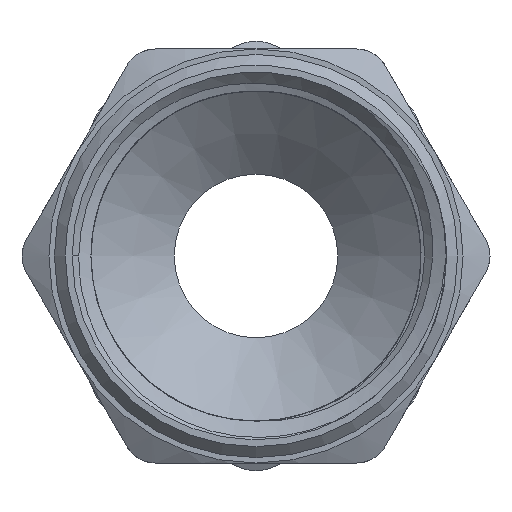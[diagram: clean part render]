
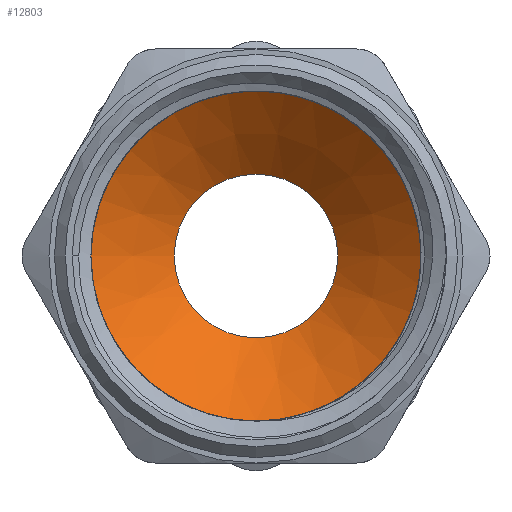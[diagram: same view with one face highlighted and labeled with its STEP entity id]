
A CAD part, left-side view. The second image highlights one B-rep face of the part: STEP entity #12803.
In plain terms, the highlighted conical face has half-angle 50 degrees and reference radius 11.325 mm.
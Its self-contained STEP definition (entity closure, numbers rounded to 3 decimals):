
#700=CONICAL_SURFACE('',#13272,11.325,0.873);
#711=CIRCLE('',#12892,15.15);
#712=CIRCLE('',#12893,15.15);
#837=CIRCLE('',#13273,7.5);
#838=CIRCLE('',#13274,7.5);
#1642=FACE_OUTER_BOUND('',#2386,.T.);
#2386=EDGE_LOOP('',(#11655,#11656,#11657,#11658,#11659,#11660));
#4052=LINE('',#30551,#4828);
#4828=VECTOR('',#15028,11.325);
#4870=VERTEX_POINT('',#15644);
#4871=VERTEX_POINT('',#15646);
#6035=VERTEX_POINT('',#30550);
#6036=VERTEX_POINT('',#30552);
#6197=EDGE_CURVE('',#4871,#4870,#711,.T.);
#6198=EDGE_CURVE('',#4870,#4871,#712,.T.);
#7941=EDGE_CURVE('',#4870,#6035,#4052,.T.);
#7942=EDGE_CURVE('',#6036,#6035,#837,.T.);
#7943=EDGE_CURVE('',#6035,#6036,#838,.T.);
#11655=ORIENTED_EDGE('',*,*,#6197,.T.);
#11656=ORIENTED_EDGE('',*,*,#7941,.T.);
#11657=ORIENTED_EDGE('',*,*,#7942,.F.);
#11658=ORIENTED_EDGE('',*,*,#7943,.F.);
#11659=ORIENTED_EDGE('',*,*,#7941,.F.);
#11660=ORIENTED_EDGE('',*,*,#6198,.T.);
#12803=ADVANCED_FACE('',(#1642),#700,.F.);
#12892=AXIS2_PLACEMENT_3D('',#15647,#13529,#13530);
#12893=AXIS2_PLACEMENT_3D('',#15648,#13531,#13532);
#13272=AXIS2_PLACEMENT_3D('',#30549,#15026,#15027);
#13273=AXIS2_PLACEMENT_3D('',#30553,#15029,#15030);
#13274=AXIS2_PLACEMENT_3D('',#30554,#15031,#15032);
#13529=DIRECTION('center_axis',(-1.,0.,0.));
#13530=DIRECTION('ref_axis',(0.,0.,1.));
#13531=DIRECTION('center_axis',(-1.,0.,0.));
#13532=DIRECTION('ref_axis',(0.,0.,1.));
#15026=DIRECTION('center_axis',(-1.,0.,0.));
#15027=DIRECTION('ref_axis',(0.,-1.,0.));
#15028=DIRECTION('',(0.643,-0.766,0.));
#15029=DIRECTION('center_axis',(-1.,0.,0.));
#15030=DIRECTION('ref_axis',(0.,0.,1.));
#15031=DIRECTION('center_axis',(-1.,0.,0.));
#15032=DIRECTION('ref_axis',(0.,0.,1.));
#15644=CARTESIAN_POINT('',(-5.,15.15,0.));
#15646=CARTESIAN_POINT('',(-5.,-15.15,0.));
#15647=CARTESIAN_POINT('Origin',(-5.,0.,
0.));
#15648=CARTESIAN_POINT('Origin',(-5.,0.,
0.));
#30549=CARTESIAN_POINT('Origin',(-1.79,0.,
0.));
#30550=CARTESIAN_POINT('',(1.419,7.5,0.));
#30551=CARTESIAN_POINT('',(-1.79,11.325,0.));
#30552=CARTESIAN_POINT('',(1.419,-7.5,0.));
#30553=CARTESIAN_POINT('Origin',(1.419,0.,
0.));
#30554=CARTESIAN_POINT('Origin',(1.419,0.,
0.));
